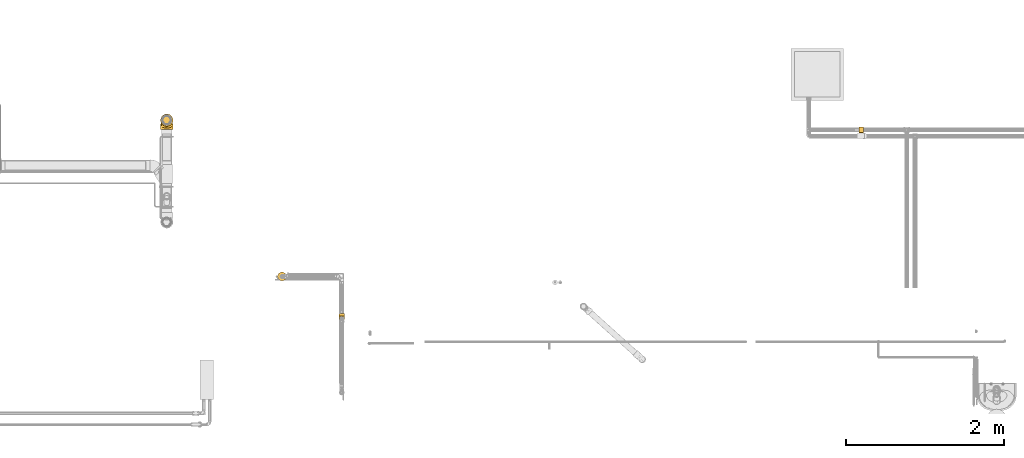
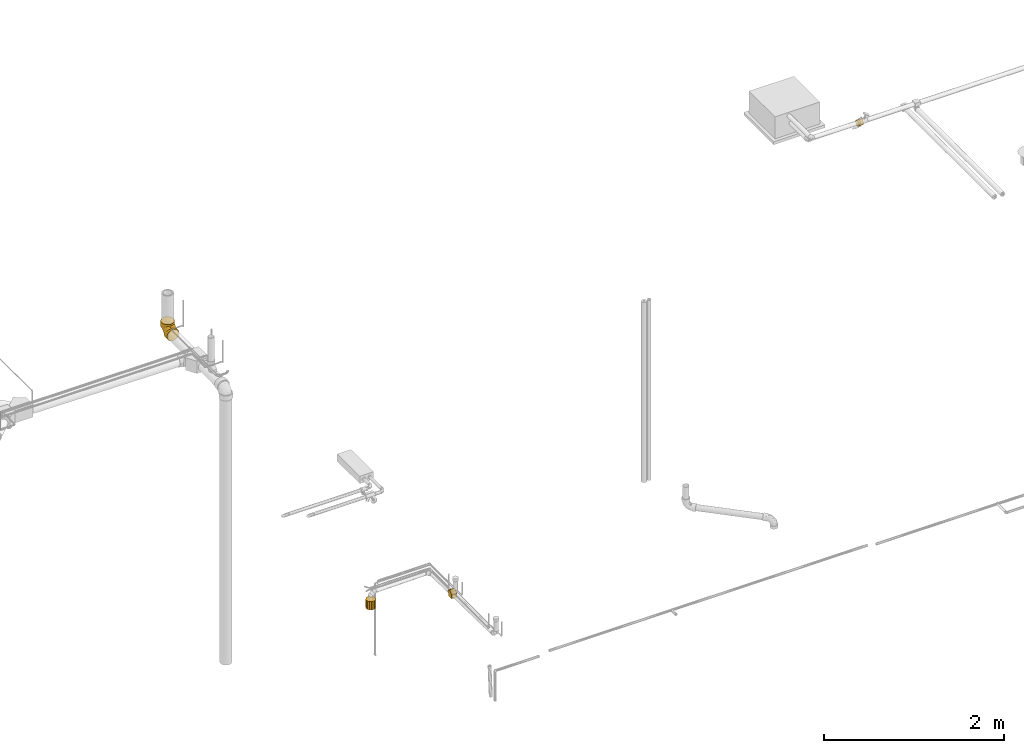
# One storey, part 13 of 108: 4 coverings.
"""IFC2X3 building model written with IfcOpenShell, lengths in millimetres."""

from ifc_helpers import new_model, entity, si_unit, converted_unit, derived_unit, direction, frame, origin_with_axes, place, context, subcontext, project, spatial, open_shell, surface_model, source, transform, mapped, element, save


model = new_model("IFC2X3")

# Units and contexts
model_context = context("Model", 3, precision=0.01, world=frame((0.0, 4.29681676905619e-09, 0.0)), true_north=direction((4.01073788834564e-13, 1.0)))
plan_context = context("Plan", 3, precision=0.01, world=frame((0.0, 4.29681676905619e-09, 0.0)), true_north=direction((4.01073788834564e-13, 1.0)))
body_context = subcontext(model_context, "Body", "Model", "MODEL_VIEW")
ifc_project = project(units=[converted_unit("PLANEANGLEUNIT", "DEGREE", entity("IfcPositiveLengthMeasure", 0.0174532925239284), si_unit("PLANEANGLEUNIT", "RADIAN"), dimensions=[0, 0, 0, 0, 0, 0, 0]), si_unit("AREAUNIT", "SQUARE_METRE"), si_unit("LENGTHUNIT", "METRE", prefix="MILLI"), si_unit("MASSUNIT", "GRAM", prefix="KILO"), si_unit("POWERUNIT", "WATT"), si_unit("PRESSUREUNIT", "PASCAL", prefix="KILO"), si_unit("FORCEUNIT", "NEWTON", prefix="KILO"), si_unit("ELECTRICVOLTAGEUNIT", "VOLT"), si_unit("ELECTRICCURRENTUNIT", "AMPERE"), si_unit("THERMODYNAMICTEMPERATUREUNIT", "DEGREE_CELSIUS"), si_unit("TIMEUNIT", "SECOND"), si_unit("VOLUMEUNIT", "CUBIC_METRE"), derived_unit("LINEARVELOCITYUNIT", [(si_unit("LENGTHUNIT", "METRE"), 1), (si_unit("TIMEUNIT", "SECOND"), -1)]), derived_unit("VOLUMETRICFLOWRATEUNIT", [(si_unit("VOLUMEUNIT", "CUBIC_METRE"), 1), (si_unit("TIMEUNIT", "SECOND"), -1)]), derived_unit("THERMALTRANSMITTANCEUNIT", [(si_unit("POWERUNIT", "WATT"), 1), (si_unit("THERMODYNAMICTEMPERATUREUNIT", "KELVIN"), -1), (si_unit("AREAUNIT", "SQUARE_METRE"), -1)]), derived_unit("SOUNDPRESSUREUNIT", [(si_unit("PRESSUREUNIT", "PASCAL"), 1)])], contexts=[model_context, plan_context])

# Site, building, storey
site_placement = place(None, frame((0.0, -4.29681676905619e-09, 0.0), z_axis=(0.0, 0.0, 1.0), x_axis=(1.0, 0.0, 0.0)))
site = spatial("IfcSite", under=ifc_project, at=site_placement, CompositionType="ELEMENT")
building_placement = place(site_placement, frame((0.0, 4.29681676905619e-09, 0.0), z_axis=(0.0, 0.0, 1.0), x_axis=(1.0, 0.0, 0.0)))
building = spatial("IfcBuilding", under=site, at=building_placement, Name="mc-building", CompositionType="ELEMENT")
storey_placement = place(building_placement, frame((0.0, 0.0, 210200.0), z_axis=(0.0, 0.0, 1.0), x_axis=(1.0, 0.0, 0.0)))
storey = spatial("IfcBuildingStorey", under=building, at=storey_placement, Name="Nivå F - 0,7 m", CompositionType="ELEMENT", Elevation=210200.0)

# Coverings
shared_shape_1 = source(origin_with_axes(), body_context, "Body", "SurfaceModel", [
    surface_model("IfcShellBasedSurfaceModel", [(-51.79605, 20.91504, -73.5), (-51.79605, 14.36612, -77.17425), (-51.79605, 24.56162, -73.43881), (-51.79605, 28.2042, -73.25826), (-119.79605, 20.31729, 75.82518), (-119.79605, -20.31729, 75.82518), (-119.79605, 0.0, 78.5), (-119.79605, 55.50788, 55.50788), (-119.79605, 39.25, 67.983), (-119.79605, 67.983, 39.25), (-119.79605, 75.82518, 20.31729), (-119.79605, -39.25, 67.983), (-119.79605, -78.5, 0.0), (-119.79605, -55.50788, 55.50788), (-119.79605, -75.82518, 20.31729), (-119.79605, -67.983, 39.25), (-119.79605, 78.5, 0.0), (-119.79605, -67.983, -39.25), (-119.79605, 75.82518, -20.31729), (-119.79605, 39.25, -67.983), (-119.79605, 67.983, -39.25), (-119.79605, 20.31729, -75.82518), (-119.79605, 55.50788, -55.50788), (-119.79605, -39.25, -67.983), (-119.79605, -55.50788, -55.50788), (-119.79605, -75.82518, -20.31729), (-119.79605, 0.0, -78.5), (-119.79605, -20.31729, -75.82518), (-98.1846, 77.47891, 12.62014), (-119.79605, 77.16259, 10.15865), (-91.93105, 63.02644, 46.79656), (-96.98023, 74.45802, 24.86469), (-98.58285, 78.5, 0.0), (-94.92986, 69.56634, 36.36996), (-87.76783, 55.18462, 55.82927), (-82.04571, 46.5999, 63.17198), (-74.20012, 38.25749, 68.54644), (-63.88761, 31.69435, 71.81726), (-51.79605, -39.25, 67.983), (-51.79605, 0.0, 78.5), (-51.79605, -20.31729, 75.82518), (-51.79605, -55.50788, 55.50788), (-51.79605, -67.983, 39.25), (-51.79605, -75.82518, 20.31729), (-51.79605, -78.5, 0.0), (-51.79605, -75.82518, -20.31729), (-51.79605, -67.983, -39.25), (-51.79605, -55.50788, -55.50788), (-51.79605, -39.25, -67.983), (-51.79605, -20.31729, -75.82518), (-51.79605, 0.0, -78.5), (-74.20012, 38.25749, -68.54644), (-82.04571, 46.5999, -63.17198), (-98.1846, 77.47891, -12.62014), (-119.79605, 77.16259, -10.15865), (-63.88761, 31.69435, -71.81726), (-91.93105, 63.02644, -46.79656), (-96.98023, 74.45802, -24.86469), (-87.76783, 55.18462, -55.82927), (-94.92986, 69.56634, -36.36996), (-13.84746, 51.93711, -77.17425), (-20.39605, 52.0026, -73.5), (-24.04246, 52.03907, -73.43881), (-27.68486, 52.07549, -73.25826), (-24.04246, 52.03907, 73.43881), (-20.39605, 52.0026, 73.5), (-13.84746, 51.93711, 77.17425), (-27.68486, 52.07549, 73.25826), (69.1775, 119.11026, -39.25), (56.70301, 119.23501, 55.50788), (69.1775, 119.11026, 39.25), (-19.11838, 119.99322, 75.82518), (-54.3072, 120.34511, 55.50788), (-38.05014, 120.18254, 67.983), (-77.29817, 120.57503, 0.0), (79.69397, 119.0051, 0.0), (77.01929, 119.03184, 20.31729), (77.01929, 119.03184, -20.31729), (-74.62348, 120.54827, -20.31729), (-66.78169, 120.46985, -39.25), (-54.3072, 120.34511, -55.50788), (-19.11838, 119.99322, -75.82518), (-38.05014, 120.18254, -67.983), (76.33932, 51.03525, 20.31729), (79.01401, 51.0085, 0.0), (56.02304, 51.23841, 55.50788), (68.49753, 51.11366, 39.25), (39.76597, 51.40098, 67.983), (40.44594, 119.39758, 67.983), (21.51418, 119.5869, 75.82518), (20.83421, 51.5903, 75.82518), (1.1979, 119.79006, 78.5), (0.51793, 51.79346, 78.5), (-37.51362, 74.57897, 68.54644), (-45.77716, 82.50758, 63.17198), (-76.49324, 98.95444, 12.62014), (-74.62348, 120.54827, 20.31729), (-75.96083, 120.56165, 10.15865), (-31.05392, 64.20134, 71.81726), (-62.10403, 92.55669, 46.79656), (-66.78169, 120.46985, 39.25), (-77.51029, 99.36288, 0.0), (-73.48455, 97.71993, 24.86469), (-54.30423, 88.31527, 55.82927), (-68.61361, 95.62074, 36.36996), (-76.49324, 98.95444, -12.62014), (-75.96083, 120.56165, -10.15865), (-73.48455, 97.71993, -24.86469), (-62.10403, 92.55669, -46.79656), (-68.61361, 95.62074, -36.36996), (-54.30423, 88.31527, -55.82927), (-45.77716, 82.50758, -63.17198), (-37.51362, 74.57897, -68.54644), (1.1979, 119.79006, -78.5), (-31.05392, 64.20134, -71.81726), (0.51793, 51.79346, -78.5), (20.83421, 51.5903, -75.82518), (21.51418, 119.5869, -75.82518), (40.44594, 119.39758, -67.983), (39.76597, 51.40098, -67.983), (56.70301, 119.23501, -55.50788), (56.02304, 51.23841, -55.50788), (68.49753, 51.11366, -39.25), (76.33932, 51.03525, -20.31729), (-47.40426, 47.88068, 71.23477), (-60.92831, 59.45465, 64.17298), (-80.92008, 82.74401, 31.39463), (-51.79605, 28.2042, 73.25826), (-51.79605, 24.56162, 73.43881), (-46.14511, 25.56558, 73.5), (-40.49417, 30.21613, 73.5), (-34.66498, 35.01337, 73.5), (-29.80969, 40.79429, 73.5), (-25.10288, 46.39845, 73.5), (-71.89187, 72.61439, 51.0154), (-86.37683, 87.24492, 0.0), (-89.21703, 81.36474, 19.23032), (-51.79605, 20.91504, 73.5), (-82.19366, 89.20415, 15.91371), (-84.82198, 84.05513, -22.01178), (-77.10094, 77.8758, -42.003), (-65.48687, 78.30622, -52.02608), (-74.10173, 65.91814, -54.3942), (-60.03494, 60.63829, -64.04669), (-47.40426, 47.88068, -71.23477), (-76.55997, 87.95391, -31.13182), (-25.10288, 46.39845, -73.5), (-29.80969, 40.79429, -73.5), (-46.14511, 25.56558, -73.5), (-34.66498, 35.01337, -73.5), (-40.49417, 30.21613, -73.5), (-51.79605, 5.6383, -72.35703), (-51.79605, -9.27174, -68.76607), (-51.79605, -23.31083, -62.59185), (-51.79605, -35.91477, -53.8583), (-51.79605, -46.49952, -42.76725), (-51.79605, -54.51871, -29.70312), (-51.79605, -59.52523, -15.21649), (-51.79605, -61.22582, 0.0), (-51.79605, -23.31083, 62.59185), (-51.79605, -9.27174, 68.76607), (-51.79605, 5.6383, 72.35703), (-51.79605, 14.36612, 77.17425), (-51.79605, -59.52523, 15.21649), (-51.79605, -54.51871, 29.70312), (-51.79605, -35.91477, 53.8583), (-51.79605, -46.49952, 42.76725), (47.01513, 51.32849, -42.76725), (36.43091, 51.43433, -53.8583), (23.82759, 51.56037, -62.59185), (55.03392, 51.2483, -29.70312), (60.04019, 51.19824, -15.21649), (61.74069, 51.18123, 0.0), (-5.12008, 51.84984, -72.35703), (9.78921, 51.70075, -68.76607), (60.04019, 51.19824, 15.21649), (55.03392, 51.2483, 29.70312), (47.01513, 51.32849, 42.76725), (36.43091, 51.43433, 53.8583), (23.82759, 51.56037, 62.59185), (9.78921, 51.70075, 68.76607), (-5.12008, 51.84984, 72.35703), (6.56689, -6.6329, 44.35957), (-17.37525, -35.16081, 32.84747), (12.25549, -12.37867, 30.89845), (-22.06533, -47.16348, 0.0), (-9.98149, -36.79585, 18.06008), (4.87101, -28.29292, 0.0), (36.89382, 9.61304, 18.06008), (15.52205, -15.67805, 17.71702), (28.24279, -5.15368, 0.0), (18.72063, 26.17798, 56.62227), (-18.42121, -25.66405, 46.04504), (0.20714, -0.20922, 54.27296), (-26.36387, -18.45793, 56.62227), (-13.82399, 2.47636, 62.92046), (-17.11278, 17.28476, 69.13658), (25.84696, 18.16366, 46.04504), (47.38177, 21.59262, 0.0), (35.33279, 17.02278, 32.84747), (5.9577, 26.8283, 64.02032), (-18.42121, -25.66405, -46.04504), (25.84696, 18.16366, -46.04504), (18.72063, 26.17798, -56.62227), (-13.82399, 2.47636, -62.92046), (0.20714, -0.20922, -54.27296), (-26.36387, -18.45793, -56.62227), (-17.11278, 17.28476, -69.13658), (5.9577, 26.8283, -64.02032), (35.33279, 17.02278, -32.84747), (-17.37525, -35.16081, -32.84747), (6.56689, -6.6329, -44.35957), (36.89382, 9.61304, -18.06008), (15.52205, -15.67805, -17.71702), (12.25549, -12.37867, -30.89845), (-9.98149, -36.79585, -18.06008)], [open_shell([[[0, 1, 2]], [[3, 2, 1]], [[4, 5, 6]], [[7, 4, 8]], [[7, 9, 10]], [[4, 7, 5]], [[10, 5, 7]], [[11, 12, 13]], [[12, 11, 5]], [[13, 14, 15]], [[14, 13, 12]], [[5, 10, 12]], [[10, 16, 12]], [[17, 12, 18]], [[19, 18, 20]], [[19, 21, 18]], [[19, 20, 22]], [[17, 18, 21]], [[17, 23, 24]], [[25, 12, 17]], [[23, 26, 27]], [[23, 17, 21]], [[26, 23, 21]], [[12, 16, 18]], [[28, 29, 10]], [[9, 7, 30]], [[31, 10, 9]], [[32, 16, 29]], [[33, 31, 9]], [[30, 33, 9]], [[28, 10, 31]], [[7, 34, 30]], [[34, 7, 35]], [[36, 8, 4]], [[8, 36, 35]], [[7, 8, 35]], [[32, 29, 28]], [[36, 4, 37]], [[11, 13, 38]], [[39, 6, 40]], [[5, 38, 40]], [[38, 5, 11]], [[6, 5, 40]], [[13, 41, 38]], [[42, 15, 14]], [[43, 14, 12]], [[41, 15, 42]], [[42, 14, 43]], [[12, 44, 43]], [[15, 41, 13]], [[45, 25, 17]], [[46, 17, 24]], [[44, 12, 45]], [[45, 12, 25]], [[17, 46, 45]], [[24, 47, 46]], [[48, 23, 27]], [[49, 27, 26]], [[47, 23, 48]], [[48, 27, 49]], [[26, 50, 49]], [[23, 47, 24]], [[1, 26, 21]], [[21, 19, 51]], [[52, 19, 22]], [[52, 51, 19]], [[50, 26, 1]], [[53, 18, 54]], [[55, 3, 1]], [[55, 1, 21]], [[51, 55, 21]], [[56, 22, 20]], [[54, 16, 32]], [[20, 18, 57]], [[32, 53, 54]], [[56, 58, 22]], [[57, 59, 20]], [[53, 57, 18]], [[56, 20, 59]], [[22, 58, 52]], [[60, 61, 62]], [[62, 63, 60]], [[64, 65, 66]], [[64, 66, 67]], [[68, 69, 70]], [[71, 72, 73]], [[72, 71, 74]], [[75, 70, 76]], [[75, 77, 68]], [[78, 74, 79]], [[80, 81, 82]], [[70, 75, 68]], [[83, 75, 76]], [[84, 75, 83]], [[85, 86, 70]], [[86, 83, 76]], [[70, 86, 76]], [[70, 69, 85]], [[87, 88, 89]], [[90, 89, 91]], [[85, 88, 87]], [[87, 89, 90]], [[91, 92, 90]], [[88, 85, 69]], [[66, 91, 71]], [[71, 73, 93]], [[94, 73, 72]], [[94, 93, 73]], [[92, 91, 66]], [[95, 96, 97]], [[98, 67, 66]], [[98, 66, 71]], [[93, 98, 71]], [[99, 72, 100]], [[97, 74, 101]], [[100, 96, 102]], [[101, 95, 97]], [[99, 103, 72]], [[102, 104, 100]], [[95, 102, 96]], [[99, 100, 104]], [[72, 103, 94]], [[105, 106, 78]], [[107, 78, 79]], [[108, 79, 80]], [[101, 74, 106]], [[109, 107, 79]], [[108, 109, 79]], [[105, 78, 107]], [[80, 110, 108]], [[110, 80, 111]], [[112, 82, 81]], [[82, 112, 111]], [[80, 82, 111]], [[60, 81, 113]], [[101, 106, 105]], [[112, 81, 114]], [[114, 60, 63]], [[81, 60, 114]], [[113, 115, 60]], [[116, 117, 118]], [[119, 118, 120]], [[113, 117, 115]], [[115, 117, 116]], [[118, 119, 116]], [[120, 121, 119]], [[122, 68, 77]], [[123, 77, 75]], [[121, 68, 122]], [[122, 77, 123]], [[75, 84, 123]], [[68, 121, 120]], [[36, 124, 125]], [[99, 104, 126]], [[127, 124, 37]], [[127, 128, 129]], [[127, 130, 131]], [[124, 127, 131]], [[132, 133, 67]], [[93, 124, 98]], [[134, 34, 125]], [[30, 34, 134]], [[36, 125, 35]], [[135, 32, 136]], [[126, 33, 134]], [[33, 30, 134]], [[128, 137, 129]], [[138, 136, 126]], [[136, 32, 28]], [[102, 95, 138]], [[102, 138, 126]], [[67, 124, 131]], [[132, 67, 131]], [[64, 133, 65]], [[35, 125, 34]], [[129, 130, 127]], [[94, 103, 125]], [[94, 125, 93]], [[93, 125, 124]], [[125, 103, 134]], [[138, 101, 135]], [[138, 95, 101]], [[67, 133, 64]], [[126, 136, 33]], [[99, 126, 134]], [[124, 36, 37]], [[28, 31, 136]], [[104, 102, 126]], [[99, 134, 103]], [[135, 136, 138]], [[98, 124, 67]], [[136, 31, 33]], [[57, 139, 59]], [[139, 135, 105]], [[59, 139, 140]], [[53, 32, 135]], [[141, 108, 110]], [[53, 139, 57]], [[135, 139, 53]], [[140, 142, 56]], [[143, 144, 51]], [[142, 143, 52]], [[56, 142, 58]], [[140, 139, 145]], [[146, 147, 63]], [[3, 55, 144]], [[148, 0, 2]], [[62, 61, 146]], [[3, 149, 150]], [[52, 58, 142]], [[51, 52, 143]], [[141, 142, 140]], [[109, 145, 107]], [[108, 145, 109]], [[108, 140, 145]], [[112, 144, 143]], [[105, 145, 139]], [[145, 105, 107]], [[111, 143, 141]], [[56, 59, 140]], [[143, 142, 141]], [[62, 146, 63]], [[3, 144, 149]], [[150, 148, 3]], [[63, 147, 149]], [[144, 63, 149]], [[51, 144, 55]], [[3, 148, 2]], [[141, 110, 111]], [[63, 144, 114]], [[112, 114, 144]], [[112, 143, 111]], [[105, 135, 101]], [[108, 141, 140]], [[50, 1, 151]], [[152, 49, 50]], [[151, 1, 0]], [[152, 153, 49]], [[151, 152, 50]], [[49, 153, 48]], [[48, 154, 47]], [[154, 48, 153]], [[47, 155, 46]], [[155, 47, 154]], [[156, 157, 45]], [[156, 45, 46]], [[44, 45, 157]], [[44, 157, 158]], [[156, 46, 155]], [[159, 160, 40]], [[161, 39, 160]], [[137, 128, 162]], [[39, 40, 160]], [[161, 162, 39]], [[128, 127, 162]], [[161, 137, 162]], [[159, 40, 38]], [[163, 164, 43]], [[43, 44, 163]], [[164, 42, 43]], [[44, 158, 163]], [[165, 38, 41]], [[38, 165, 159]], [[42, 166, 41]], [[166, 42, 164]], [[41, 166, 165]], [[162, 4, 6]], [[37, 162, 127]], [[4, 162, 37]], [[6, 39, 162]], [[121, 167, 168]], [[167, 121, 122]], [[119, 168, 169]], [[168, 119, 121]], [[122, 123, 170]], [[171, 170, 123]], [[84, 172, 171]], [[171, 123, 84]], [[122, 170, 167]], [[173, 60, 115]], [[173, 61, 60]], [[115, 116, 174]], [[169, 174, 116]], [[174, 173, 115]], [[116, 119, 169]], [[84, 83, 175]], [[176, 175, 83]], [[83, 86, 176]], [[86, 85, 177]], [[85, 178, 177]], [[178, 85, 87]], [[178, 87, 179]], [[86, 177, 176]], [[180, 179, 90]], [[180, 92, 181]], [[66, 181, 92]], [[65, 181, 66]], [[92, 180, 90]], [[179, 87, 90]], [[175, 172, 84]], [[91, 89, 88]], [[71, 91, 88]], [[71, 88, 69]], [[69, 68, 71]], [[72, 96, 100]], [[96, 72, 74]], [[74, 71, 80]], [[68, 117, 71]], [[118, 117, 68]], [[118, 68, 120]], [[117, 80, 71]], [[80, 79, 74]], [[80, 117, 81]], [[81, 117, 113]], [[182, 183, 184]], [[163, 158, 185]], [[186, 185, 187]], [[188, 189, 190]], [[178, 179, 191]], [[186, 164, 163]], [[166, 183, 192]], [[163, 185, 186]], [[192, 193, 194]], [[194, 159, 165]], [[159, 194, 195]], [[176, 188, 175]], [[159, 195, 160]], [[196, 161, 160]], [[193, 182, 197]], [[183, 166, 164]], [[161, 131, 137]], [[180, 181, 196]], [[184, 189, 188]], [[198, 175, 188]], [[197, 178, 191]], [[199, 177, 197]], [[184, 186, 189]], [[178, 197, 177]], [[199, 197, 182]], [[175, 198, 172]], [[179, 180, 200]], [[197, 191, 193]], [[184, 183, 186]], [[191, 179, 200]], [[131, 181, 65]], [[161, 196, 131]], [[184, 188, 199]], [[165, 166, 192]], [[131, 196, 181]], [[200, 195, 193]], [[193, 191, 200]], [[195, 194, 193]], [[200, 196, 195]], [[192, 194, 165]], [[160, 195, 196]], [[188, 190, 198]], [[196, 200, 180]], [[182, 193, 192]], [[164, 186, 183]], [[188, 176, 199]], [[177, 199, 176]], [[186, 187, 189]], [[190, 189, 187]], [[183, 182, 192]], [[199, 182, 184]], [[154, 201, 155]], [[202, 203, 168]], [[204, 205, 206]], [[204, 206, 153]], [[201, 206, 205]], [[152, 207, 204]], [[207, 174, 208]], [[207, 151, 149]], [[185, 158, 157]], [[167, 209, 202]], [[174, 169, 208]], [[210, 201, 211]], [[212, 213, 214]], [[170, 171, 212]], [[169, 168, 203]], [[187, 185, 215]], [[207, 208, 204]], [[211, 209, 214]], [[151, 0, 149]], [[208, 205, 204]], [[149, 61, 173]], [[168, 167, 202]], [[214, 215, 210]], [[207, 152, 151]], [[154, 153, 206]], [[205, 211, 201]], [[209, 167, 170]], [[203, 205, 208]], [[211, 205, 202]], [[203, 202, 205]], [[190, 187, 213]], [[214, 209, 212]], [[213, 215, 214]], [[201, 210, 155]], [[171, 172, 198]], [[156, 215, 157]], [[185, 157, 215]], [[212, 198, 190]], [[173, 174, 207]], [[201, 154, 206]], [[169, 203, 208]], [[173, 207, 149]], [[153, 152, 204]], [[171, 198, 212]], [[170, 212, 209]], [[215, 156, 210]], [[155, 210, 156]], [[190, 213, 212]], [[187, 215, 213]], [[209, 211, 202]], [[210, 211, 214]]])]),
])
covering_1_placement = place(storey_placement, frame((328906.4829, 464105.74812, 3078.51384999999), z_axis=(1.0, 0.0, 0.0), x_axis=(0.0, 0.999950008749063, 0.00999900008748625)))
element("IfcCovering", 1, at=covering_1_placement, inside=storey, Name="BI17T - Cellegummi 13 mm SPV fett", PredefinedType="INSULATION", context=body_context, shape_type="MappedRepresentation", body=[
    mapped(shared_shape_1, transform((0.0, 0.0, 0.0), scale=1.0)),
])
shared_shape_2 = source(origin_with_axes(), body_context, "Body", "SurfaceModel", [
    surface_model("IfcShellBasedSurfaceModel", [(29.0, 9.82218, -36.65688), (29.0, 18.975, -32.86566), (29.0, 26.8347, -26.8347), (29.0, 36.65688, -9.82218), (29.0, 37.95, 0.0), (29.0, 32.86566, -18.975), (29.0, -36.65688, -9.82218), (29.0, -9.82218, -36.65688), (29.0, -26.8347, -26.8347), (29.0, -18.975, -32.86566), (29.0, 0.0, -37.95), (29.0, -32.86566, -18.975), (29.0, -37.95, 0.0), (29.0, 36.65688, 9.82218), (29.0, 32.86566, 18.975), (29.0, 26.8347, 26.8347), (29.0, 9.82218, 36.65688), (29.0, 0.0, 37.95), (29.0, 18.975, 32.86566), (29.0, -9.82218, 36.65688), (29.0, -32.86566, 18.975), (29.0, -36.65688, 9.82218), (29.0, -26.8347, 26.8347), (29.0, -18.975, 32.86566), (-29.0, 26.8347, 26.8347), (-29.0, 0.0, 37.95), (-29.0, 9.82218, 36.65688), (-29.0, 18.975, 32.86566), (-29.0, 32.86566, 18.975), (-29.0, 36.65688, 9.82218), (-29.0, -9.82218, 36.65688), (-29.0, -26.8347, 26.8347), (-29.0, -18.975, 32.86566), (-29.0, -37.95, 0.0), (-29.0, -32.86566, 18.975), (-29.0, -36.65688, 9.82218), (-29.0, 36.65688, -9.82218), (-29.0, 9.82218, -36.65688), (-29.0, 26.8347, -26.8347), (-29.0, 32.86566, -18.975), (-29.0, 18.975, -32.86566), (-29.0, -26.8347, -26.8347), (-29.0, -36.65688, -9.82218), (-29.0, -32.86566, -18.975), (-29.0, -9.82218, -36.65688), (-29.0, -18.975, -32.86566), (-29.0, 0.0, -37.95), (-29.0, 37.95, 0.0)], [open_shell([[[0, 1, 2]], [[0, 2, 3]], [[3, 4, 0]], [[3, 2, 5]], [[0, 4, 6]], [[7, 8, 9]], [[7, 10, 0]], [[8, 6, 11]], [[7, 0, 8]], [[0, 6, 8]], [[4, 12, 6]], [[13, 14, 15]], [[12, 13, 15]], [[16, 17, 15]], [[16, 15, 18]], [[19, 15, 17]], [[12, 20, 21]], [[20, 12, 22]], [[22, 19, 23]], [[19, 22, 12]], [[12, 15, 19]], [[13, 12, 4]], [[24, 25, 26]], [[24, 26, 27]], [[24, 28, 29]], [[24, 29, 25]], [[25, 29, 30]], [[30, 31, 32]], [[31, 30, 33]], [[34, 33, 35]], [[33, 34, 31]], [[30, 29, 33]], [[29, 36, 33]], [[33, 36, 37]], [[38, 36, 39]], [[38, 40, 37]], [[38, 37, 36]], [[33, 37, 41]], [[42, 41, 43]], [[33, 41, 42]], [[41, 44, 45]], [[41, 37, 44]], [[46, 44, 37]], [[29, 47, 36]], [[47, 29, 13]], [[4, 47, 13]], [[28, 14, 13]], [[15, 14, 28]], [[29, 28, 13]], [[28, 24, 15]], [[18, 27, 26]], [[16, 26, 25]], [[15, 27, 18]], [[18, 26, 16]], [[25, 17, 16]], [[27, 15, 24]], [[19, 30, 32]], [[23, 32, 31]], [[25, 30, 17]], [[17, 30, 19]], [[32, 23, 19]], [[31, 22, 23]], [[20, 34, 35]], [[21, 35, 33]], [[22, 34, 20]], [[20, 35, 21]], [[33, 12, 21]], [[34, 22, 31]], [[6, 42, 43]], [[11, 43, 41]], [[33, 42, 12]], [[12, 42, 6]], [[43, 11, 6]], [[41, 8, 11]], [[9, 45, 44]], [[7, 44, 46]], [[8, 45, 9]], [[9, 44, 7]], [[46, 10, 7]], [[45, 8, 41]], [[0, 37, 40]], [[1, 40, 38]], [[46, 37, 10]], [[10, 37, 0]], [[40, 1, 0]], [[38, 2, 1]], [[5, 39, 36]], [[3, 36, 47]], [[2, 39, 5]], [[5, 36, 3]], [[47, 4, 3]], [[39, 2, 38]]])]),
])
covering_2_placement = place(storey_placement, frame((337694.87202, 463983.47358, 2880.0), z_axis=(0.0, 0.0, -1.0), x_axis=(-1.0, 0.0, 0.0)))
element("IfcCovering", 2, at=covering_2_placement, inside=storey, Name="BI10T - Cellegummi 18-32 mm kalde rør", PredefinedType="INSULATION", context=body_context, shape_type="MappedRepresentation", body=[
    mapped(shared_shape_2, transform((0.0, 0.0, 0.0), scale=1.0)),
])
shared_shape_3 = source(origin_with_axes(), body_context, "Body", "SurfaceModel", [
    surface_model("IfcShellBasedSurfaceModel", [(-21.31371, -39.95696, -34.0), (9.67939, -59.09017, -34.0), (-21.31371, -39.95696, 34.0), (9.67939, -59.09017, 34.0), (55.69849, -13.07107, -34.0), (55.69849, -13.07107, 34.0), (55.69849, 35.86534, -34.0), (55.69849, 35.86534, 34.0), (-21.31371, 34.58181, 34.0), (-21.31371, 34.58181, -34.0)], [open_shell([[[0, 1, 2]], [[3, 2, 1]], [[1, 4, 5]], [[5, 3, 1]], [[4, 6, 5]], [[7, 5, 6]], [[2, 3, 5]], [[5, 7, 8]], [[5, 8, 2]], [[1, 0, 4]], [[4, 9, 6]], [[9, 4, 0]], [[8, 7, 6]], [[6, 9, 8]], [[9, 0, 2]], [[2, 8, 9]]])]),
])
covering_3_placement = place(storey_placement, frame((331121.18062, 461637.52684, 234.709919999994), z_axis=(1.0, 0.0, 0.0), x_axis=(0.0, -0.999861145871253, 0.0166640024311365)))
element("IfcCovering", 3, at=covering_3_placement, inside=storey, Name="BI17T - Cellegummi 13 mm SPV fett", PredefinedType="INSULATION", context=body_context, shape_type="MappedRepresentation", body=[
    mapped(shared_shape_3, transform((0.0, 0.0, 0.0), scale=1.0)),
])
shared_shape_4 = source(origin_with_axes(), body_context, "Body", "SurfaceModel", [
    surface_model("IfcShellBasedSurfaceModel", [(112.6, 0.0, 55.5), (112.6, -21.23893, 51.27531), (112.6, -39.24443, 39.24443), (112.6, -51.27531, 21.23893), (112.6, -55.5, 0.0), (112.6, 55.5, 0.0), (112.6, 21.23893, 51.27531), (112.6, 51.27531, 21.23893), (112.6, 39.24443, 39.24443), (112.6, -51.27531, -21.23893), (112.6, 39.24443, -39.24443), (112.6, -39.24443, -39.24443), (112.6, -21.23893, -51.27531), (112.6, 0.0, -55.5), (112.6, 51.27531, -21.23893), (112.6, 21.23893, -51.27531), (0.0, 0.0, 55.5), (0.0, 21.23893, 51.27531), (0.0, 51.27531, 21.23893), (0.0, 39.24443, 39.24443), (0.0, -39.24443, 39.24443), (0.0, -21.23893, 51.27531), (0.0, -51.27531, -21.23893), (0.0, -55.5, 0.0), (0.0, -51.27531, 21.23893), (0.0, 21.23893, -51.27531), (0.0, 51.27531, -21.23893), (0.0, 39.24443, -39.24443), (0.0, -39.24443, -39.24443), (0.0, 0.0, -55.5), (0.0, -21.23893, -51.27531), (0.0, 55.5, 0.0), (112.6, -45.25987, -30.24168), (0.0, -53.38766, -10.61947), (112.6, -53.38766, -10.61947), (0.0, -45.25987, -30.24168), (0.0, -10.61947, -53.38766), (0.0, -30.24168, -45.25987), (112.6, -30.24168, -45.25987), (112.6, -10.90349, -53.33116), (112.6, 30.24168, -45.25987), (0.0, 10.61947, -53.38766), (112.6, 10.61947, -53.38766), (0.0, 30.24168, -45.25987), (0.0, 53.38766, -10.61947), (0.0, 45.25987, -30.24168), (112.6, 45.25987, -30.24168), (112.6, 53.33116, -10.90349), (112.6, 45.25987, 30.24168), (0.0, 53.38766, 10.61947), (112.6, 53.38766, 10.61947), (0.0, 45.25987, 30.24168), (0.0, 10.61947, 53.38766), (0.0, 30.24168, 45.25987), (112.6, 30.24168, 45.25987), (112.6, 10.90349, 53.33116), (112.6, -30.24168, 45.25987), (0.0, -10.61947, 53.38766), (112.6, -10.61947, 53.38766), (0.0, -30.24168, 45.25987), (0.0, -53.38766, 10.61947), (0.0, -45.25987, 30.24168), (112.6, -45.25987, 30.24168), (112.6, -53.33116, 10.90349)], [open_shell([[[0, 1, 2]], [[3, 4, 2]], [[2, 5, 0]], [[6, 0, 7]], [[7, 8, 6]], [[7, 0, 5]], [[2, 4, 9]], [[10, 9, 11]], [[12, 13, 11]], [[10, 11, 13]], [[14, 5, 10]], [[10, 5, 9]], [[13, 15, 10]], [[9, 5, 2]], [[16, 17, 18]], [[19, 18, 17]], [[16, 18, 20]], [[21, 16, 20]], [[22, 23, 24]], [[24, 20, 22]], [[20, 18, 25]], [[26, 25, 18]], [[27, 25, 26]], [[25, 22, 20]], [[22, 25, 28]], [[29, 30, 28]], [[25, 29, 28]], [[18, 31, 26]], [[32, 28, 11]], [[33, 22, 34]], [[4, 23, 33]], [[28, 32, 35]], [[9, 22, 35]], [[9, 35, 32]], [[36, 29, 13]], [[11, 28, 37]], [[11, 37, 38]], [[39, 12, 30]], [[13, 39, 36]], [[4, 33, 34]], [[39, 30, 36]], [[30, 12, 38]], [[30, 38, 37]], [[22, 9, 34]], [[40, 27, 10]], [[41, 25, 42]], [[13, 29, 41]], [[27, 40, 43]], [[15, 25, 43]], [[15, 43, 40]], [[44, 31, 5]], [[10, 27, 45]], [[10, 45, 46]], [[47, 14, 26]], [[5, 47, 44]], [[13, 41, 42]], [[47, 26, 44]], [[26, 14, 46]], [[26, 46, 45]], [[25, 15, 42]], [[48, 19, 8]], [[49, 18, 50]], [[5, 31, 49]], [[19, 48, 51]], [[7, 18, 51]], [[7, 51, 48]], [[52, 16, 0]], [[8, 19, 53]], [[8, 53, 54]], [[55, 6, 17]], [[0, 55, 52]], [[5, 49, 50]], [[55, 17, 52]], [[17, 6, 54]], [[17, 54, 53]], [[18, 7, 50]], [[56, 20, 2]], [[57, 21, 58]], [[0, 16, 57]], [[20, 56, 59]], [[1, 21, 59]], [[1, 59, 56]], [[60, 23, 4]], [[2, 20, 61]], [[2, 61, 62]], [[63, 3, 24]], [[4, 63, 60]], [[0, 57, 58]], [[63, 24, 60]], [[24, 3, 62]], [[24, 62, 61]], [[21, 1, 58]]])]),
])
covering_4_placement = place(storey_placement, frame((330364.34908, 462127.61957, 120.219459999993), z_axis=(0.0, -1.0, 0.0), x_axis=(0.0, 0.0, -1.0)))
element("IfcCovering", 4, at=covering_4_placement, inside=storey, Name="BI17T - Cellegummi 13 mm SPV fett", PredefinedType="INSULATION", context=body_context, shape_type="MappedRepresentation", body=[
    mapped(shared_shape_4, transform((0.0, 0.0, 0.0), scale=1.0)),
])

save(model, "model.ifc")
